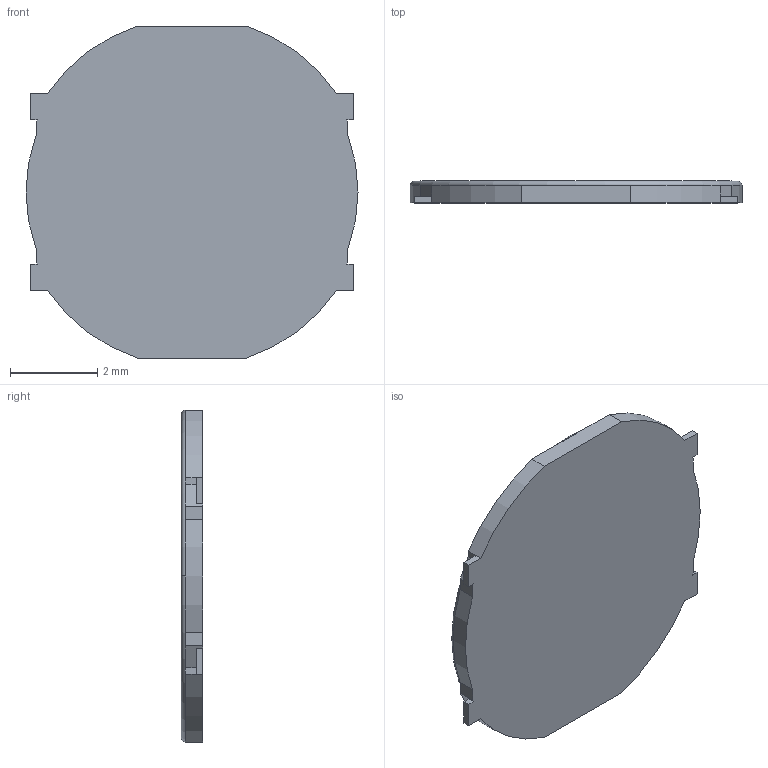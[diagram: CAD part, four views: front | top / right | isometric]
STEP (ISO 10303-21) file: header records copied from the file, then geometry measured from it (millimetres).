
FILE_DESCRIPTION((''),'2;1');
FILE_NAME('JQA7676-C0060-01EG-1-103_ASM','2026-05-13T15:03:01',('Admin'),(''),'CREO PARAMETRIC BY PTC INC, 2019224','CREO PARAMETRIC BY PTC INC, 2019224','');
FILE_SCHEMA(('AUTOMOTIVE_DESIGN { 1 0 10303 214 1 1 1 1 }'));
Length unit declared in the file: millimetre
Products named in the file (3): JQA7676-C0060-01EG-1-103_04; JQA7676-C0060-01EG-1-103_05; JQA7676-C0060-01EG-1-103_ASM
Assembly tree (2 placements, depth 2):
  JQA7676-C0060-01EG-1-103_ASM
    JQA7676-C0060-01EG-1-103_04
    JQA7676-C0060-01EG-1-103_05
Bounding box: 7.6 x 0.5 x 7.6 mm (x, y, z)
Volume: 19.1 mm3; surface area: 208.2 mm2
Topology: 2 solids, 2 shells, 71 faces, 194 edges, 129 vertices
Faces by surface type: plane 57, cylinder 10, sphere 2, torus 2
Entity records: 3304 total; most frequent: CARTESIAN_POINT 406, DIRECTION 392, ORIENTED_EDGE 380, PRESENTATION_STYLE_ASSIGNMENT 221, STYLED_ITEM 197, CURVE_STYLE 195, EDGE_CURVE 190, VECTOR 156
